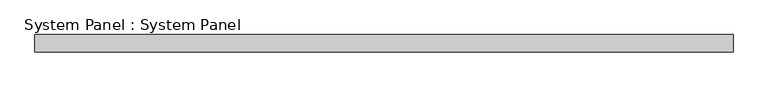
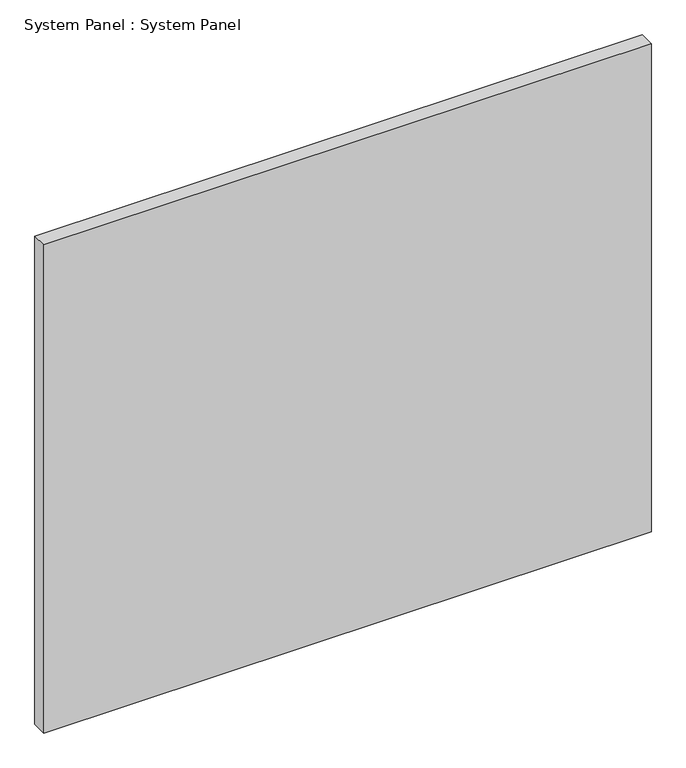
"""IFC4 building model written with IfcOpenShell, lengths in millimetres: plate geometry, System Panel : System Panel."""

from ifc_helpers import new_model, si_unit, origin, origin_with_axes, place, context, project, spatial, polyline, outline, extrude, source, transform, mapped, element, save


def system_panel_system_panel_a8a6c9f9(model_context):
    return source(origin(), model_context, "Body", "SweptSolid", [
        extrude(outline(polyline([(504.825, 19.05), (-504.825, 19.05), (-504.825, 44.45), (504.825, 44.45), (504.825, 19.05)])), origin_with_axes(), (0.0, 0.0, 1.0), 857.25),
    ])


if __name__ == "__main__":
    model = new_model("IFC4")
    model_context = context("Model", 3, world=origin())
    ifc_project = project(units=[si_unit("LENGTHUNIT", "METRE", prefix="MILLI")], contexts=[model_context])
    site = spatial("IfcSite", under=ifc_project)
    building = spatial("IfcBuilding", under=site)
    placement = place(None, origin())
    system_panel_system_panel_shape = system_panel_system_panel_a8a6c9f9(model_context)
    element("IfcPlate", 1, ObjectType="System Panel : System Panel", at=placement, inside=building, context=model_context, shape_type="MappedRepresentation", body=[
        mapped(system_panel_system_panel_shape, transform((0.0, 0.0, 0.0), x_axis=(1.0, 0.0, 0.0), y_axis=(0.0, 1.0, 0.0), z_axis=(0.0, 0.0, 1.0))),
    ])
    save(model, "model.ifc")
